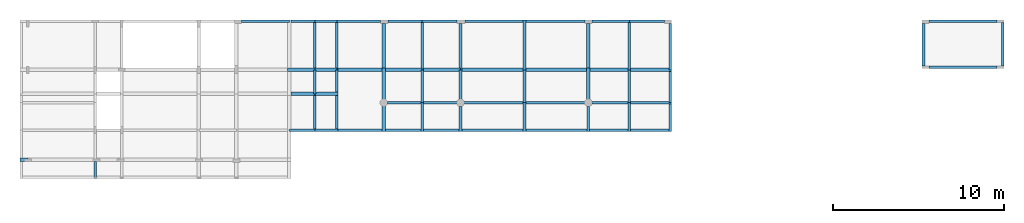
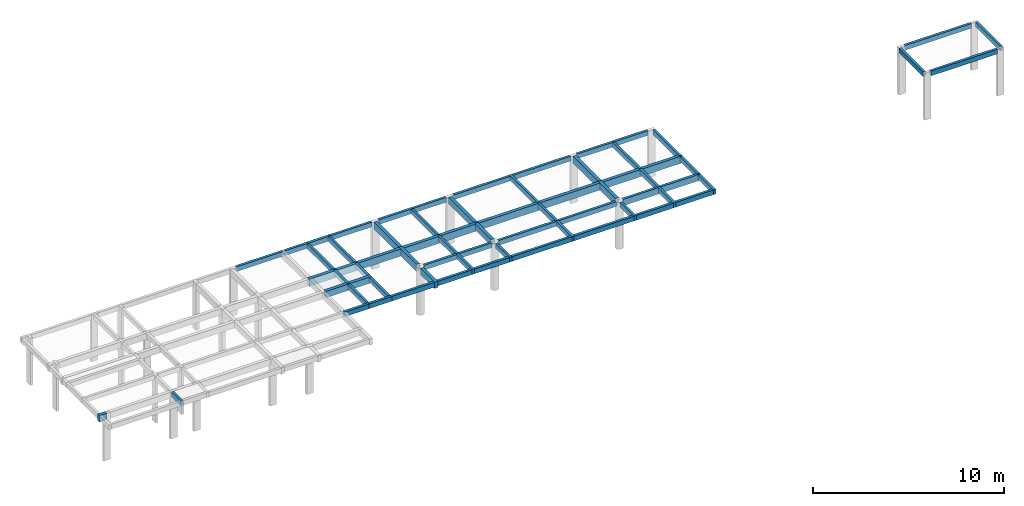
# One storey, part 2 of 4: 69 beams.
"""IFC2X3 building model written with IfcOpenShell, lengths in centimetres."""

from ifc_helpers import new_model, si_unit, derived_unit, frame, origin, origin_with_axes, origin_2d_with_axis, place, context, project, spatial, rectangle, extrude, material, element, save


model = new_model("IFC2X3")

# Units and contexts
model_context = context("Model", 3, precision=1e-05, world=origin_with_axes(), identifier="Body")
ifc_project = project(units=[si_unit("LENGTHUNIT", "METRE", prefix="CENTI"), si_unit("VOLUMEUNIT", "CUBIC_METRE"), si_unit("AREAUNIT", "SQUARE_METRE"), si_unit("POWERUNIT", "WATT"), si_unit("LUMINOUSFLUXUNIT", "LUMEN"), si_unit("ELECTRICCURRENTUNIT", "AMPERE"), si_unit("PRESSUREUNIT", "PASCAL", prefix="KILO"), si_unit("MASSUNIT", "GRAM", prefix="KILO"), si_unit("PLANEANGLEUNIT", "RADIAN"), derived_unit("VOLUMETRICFLOWRATEUNIT", [(si_unit("LENGTHUNIT", "METRE"), 3), (si_unit("TIMEUNIT", "SECOND"), -1)])], contexts=[model_context])

# Site, building, storey
site_placement = place(None, origin_with_axes())
site = spatial("IfcSite", under=ifc_project, at=site_placement)
building_placement = place(site_placement, origin())
building = spatial("IfcBuilding", under=site, at=building_placement)
placement_1 = place(building_placement, origin_with_axes())
placement_2 = place(placement_1, frame((0.0, 0.0, 80.0), z_axis=(0.0, 0.0, 1.0), x_axis=(1.0, 0.0, 0.0)))
placement_3 = place(placement_2, frame((0.0, 0.0, 320.0), z_axis=(0.0, 0.0, 1.0), x_axis=(1.0, 0.0, 0.0)))
placement_4 = place(placement_3, frame((0.0, 0.0, 320.0), z_axis=(0.0, 0.0, 1.0), x_axis=(1.0, 0.0, 0.0)))
storey_placement = place(placement_4, frame((0.0, 0.0, 300.0), z_axis=(0.0, 0.0, 1.0), x_axis=(1.0, 0.0, 0.0)))
storey = spatial("IfcBuildingStorey", under=building, at=storey_placement, Name="05. Pavimento Técnico", CompositionType="ELEMENT", Elevation=1020.0)

# Beams
ifc_material = material(Name="Concreto")
beam_1_placement = place(storey_placement, frame((298.915, -281.61, 0.0), z_axis=(0.0, 0.0, 1.0), x_axis=(1.0, 0.0, 0.0)))
element("IfcBeam", 1, at=beam_1_placement, inside=storey, material=ifc_material, Name="V1", context=model_context, shape_type="SolidModel", body=[
    extrude(rectangle(XDim=15.0, YDim=30.0, at=origin_2d_with_axis()), frame((-64.375, 0.0, -15.0), z_axis=(1.0, 0.0, 0.0), x_axis=(0.0, -1.0, 0.0)), (0.0, 0.0, 1.0), 128.75),
])
beam_2_placement = place(storey_placement, frame((966.04, -281.61, 0.0), z_axis=(0.0, 0.0, 1.0), x_axis=(1.0, 0.0, 0.0)))
element("IfcBeam", 2, at=beam_2_placement, inside=storey, material=ifc_material, Name="V1", context=model_context, shape_type="SolidModel", body=[
    extrude(rectangle(XDim=15.0, YDim=30.0, at=origin_2d_with_axis()), frame((-102.5, 0.0, -15.0), z_axis=(1.0, 0.0, 0.0), x_axis=(0.0, 1.0, 0.0)), (0.0, 0.0, 1.0), 205.0),
])
beam_3_placement = place(storey_placement, frame((-54.96, -281.61, 0.0), z_axis=(0.0, 0.0, 1.0), x_axis=(1.0, 0.0, 0.0)))
element("IfcBeam", 3, at=beam_3_placement, inside=storey, material=ifc_material, Name="V1", context=model_context, shape_type="SolidModel", body=[
    extrude(rectangle(XDim=15.0, YDim=30.0, at=origin_2d_with_axis()), frame((-140.5, 0.0, -15.0), z_axis=(1.0, 0.0, 0.0), x_axis=(0.0, -1.0, 0.0)), (0.0, 0.0, 1.0), 281.0),
])
beam_4_placement = place(storey_placement, frame((2181.915, -281.61, 0.0), z_axis=(0.0, 0.0, 1.0), x_axis=(1.0, 0.0, 0.0)))
element("IfcBeam", 4, at=beam_4_placement, inside=storey, material=ifc_material, Name="V1", context=model_context, shape_type="SolidModel", body=[
    extrude(rectangle(XDim=15.0, YDim=30.0, at=origin_2d_with_axis()), frame((-103.625, 0.0, -15.0), z_axis=(1.0, 0.0, 0.0), x_axis=(0.0, 1.0, 0.0)), (0.0, 0.0, 1.0), 207.25),
])
beam_5_placement = place(storey_placement, frame((763.54, -281.61, 0.0), z_axis=(0.0, 0.0, 1.0), x_axis=(1.0, 0.0, 0.0)))
element("IfcBeam", 5, at=beam_5_placement, inside=storey, material=ifc_material, Name="V1", context=model_context, shape_type="SolidModel", body=[
    extrude(rectangle(XDim=15.0, YDim=30.0, at=origin_2d_with_axis()), frame((-100.0, 0.0, -15.0), z_axis=(1.0, 0.0, 0.0), x_axis=(0.0, 1.0, 0.0)), (0.0, 0.0, 1.0), 200.0),
])
beam_6_placement = place(storey_placement, frame((1284.855, -281.61, 0.0), z_axis=(0.0, 0.0, 1.0), x_axis=(1.0, 0.0, 0.0)))
element("IfcBeam", 6, at=beam_6_placement, inside=storey, material=ifc_material, Name="V1", context=model_context, shape_type="SolidModel", body=[
    extrude(rectangle(XDim=15.0, YDim=30.0, at=origin_2d_with_axis()), frame((-171.315, 0.0, -15.0), z_axis=(1.0, 0.0, 0.0), x_axis=(0.0, 1.0, 0.0)), (0.0, 0.0, 1.0), 342.63),
])
beam_7_placement = place(storey_placement, frame((1968.415, -281.61, 0.0), z_axis=(0.0, 0.0, 1.0), x_axis=(1.0, 0.0, 0.0)))
element("IfcBeam", 7, at=beam_7_placement, inside=storey, material=ifc_material, Name="V1", context=model_context, shape_type="SolidModel", body=[
    extrude(rectangle(XDim=15.0, YDim=30.0, at=origin_2d_with_axis()), frame((-109.875, 0.0, -15.0), z_axis=(1.0, 0.0, 0.0), x_axis=(0.0, 1.0, 0.0)), (0.0, 0.0, 1.0), 219.75),
])
beam_8_placement = place(storey_placement, frame((1641.105, -281.61, 0.0), z_axis=(0.0, 0.0, 1.0), x_axis=(1.0, 0.0, 0.0)))
element("IfcBeam", 8, at=beam_8_placement, inside=storey, material=ifc_material, Name="V1", context=model_context, shape_type="SolidModel", body=[
    extrude(rectangle(XDim=15.0, YDim=30.0, at=origin_2d_with_axis()), frame((-177.435, 0.0, -15.0), z_axis=(1.0, 0.0, 0.0), x_axis=(0.0, 1.0, 0.0)), (0.0, 0.0, 1.0), 354.87),
])
beam_9_placement = place(storey_placement, frame((490.915, -281.61, 0.0), z_axis=(0.0, 0.0, 1.0), x_axis=(1.0, 0.0, 0.0)))
element("IfcBeam", 9, at=beam_9_placement, inside=storey, material=ifc_material, Name="V1", context=model_context, shape_type="SolidModel", body=[
    extrude(rectangle(XDim=15.0, YDim=30.0, at=origin_2d_with_axis()), frame((-127.625, 0.0, -15.0), z_axis=(1.0, 0.0, 0.0), x_axis=(0.0, -1.0, 0.0)), (0.0, 0.0, 1.0), 255.25),
])
beam_10_placement = place(storey_placement, frame((165.04, -281.61, 0.0), z_axis=(0.0, 0.0, 1.0), x_axis=(1.0, 0.0, 0.0)))
element("IfcBeam", 10, at=beam_10_placement, inside=storey, material=ifc_material, Name="V1", context=model_context, shape_type="SolidModel", body=[
    extrude(rectangle(XDim=15.0, YDim=30.0, at=origin_2d_with_axis()), frame((-69.5, 0.0, -15.0), z_axis=(1.0, 0.0, 0.0), x_axis=(0.0, -1.0, 0.0)), (0.0, 0.0, 1.0), 139.0),
])
beam_11_placement = place(storey_placement, frame((2201.915, -758.96, 0.0), z_axis=(0.0, 0.0, 1.0), x_axis=(1.0, 0.0, 0.0)))
element("IfcBeam", 11, at=beam_11_placement, inside=storey, material=ifc_material, Name="V10", context=model_context, shape_type="SolidModel", body=[
    extrude(rectangle(XDim=15.0, YDim=40.0, at=origin_2d_with_axis()), frame((-123.625, 0.0, -20.0), z_axis=(1.0, 0.0, 0.0), x_axis=(0.0, 1.0, 0.0)), (0.0, 0.0, 1.0), 247.25),
])
beam_12_placement = place(storey_placement, frame((1969.0866017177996, -758.96, 0.0), z_axis=(0.0, 0.0, 1.0), x_axis=(1.0, 0.0, 0.0)))
element("IfcBeam", 12, at=beam_12_placement, inside=storey, material=ifc_material, Name="V10", context=model_context, shape_type="SolidModel", body=[
    extrude(rectangle(XDim=15.0, YDim=40.0, at=origin_2d_with_axis()), frame((-109.20339828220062, 0.0, -20.0), z_axis=(1.0, 0.0, 0.0), x_axis=(0.0, 1.0, 0.0)), (0.0, 0.0, 1.0), 218.40679656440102),
])
beam_13_placement = place(storey_placement, frame((302.665, -919.61, 0.0), z_axis=(0.0, 0.0, 1.0), x_axis=(1.0, 0.0, 0.0)))
element("IfcBeam", 13, at=beam_13_placement, inside=storey, material=ifc_material, Name="V11", context=model_context, shape_type="SolidModel", body=[
    extrude(rectangle(XDim=15.0, YDim=30.0, at=origin_2d_with_axis()), frame((-68.125, 0.0, -15.0), z_axis=(1.0, 0.0, 0.0), x_axis=(0.0, -1.0, 0.0)), (0.0, 0.0, 1.0), 136.25),
])
beam_14_placement = place(storey_placement, frame((972.29, -919.61, 0.0), z_axis=(0.0, 0.0, 1.0), x_axis=(1.0, 0.0, 0.0)))
element("IfcBeam", 14, at=beam_14_placement, inside=storey, material=ifc_material, Name="V11", context=model_context, shape_type="SolidModel", body=[
    extrude(rectangle(XDim=15.0, YDim=30.0, at=origin_2d_with_axis()), frame((-108.75, 0.0, -15.0), z_axis=(1.0, 0.0, 0.0), x_axis=(0.0, -1.0, 0.0)), (0.0, 0.0, 1.0), 217.5),
])
beam_15_placement = place(storey_placement, frame((2194.415, -919.61, 0.0), z_axis=(0.0, 0.0, 1.0), x_axis=(1.0, 0.0, 0.0)))
element("IfcBeam", 15, at=beam_15_placement, inside=storey, material=ifc_material, Name="V11", context=model_context, shape_type="SolidModel", body=[
    extrude(rectangle(XDim=15.0, YDim=30.0, at=origin_2d_with_axis()), frame((-116.125, 0.0, -15.0), z_axis=(1.0, 0.0, 0.0), x_axis=(0.0, 1.0, 0.0)), (0.0, 0.0, 1.0), 232.25),
])
beam_16_placement = place(storey_placement, frame((1654.855, -919.61, 0.0), z_axis=(0.0, 0.0, 1.0), x_axis=(1.0, 0.0, 0.0)))
element("IfcBeam", 16, at=beam_16_placement, inside=storey, material=ifc_material, Name="V11", context=model_context, shape_type="SolidModel", body=[
    extrude(rectangle(XDim=15.0, YDim=30.0, at=origin_2d_with_axis()), frame((-183.685, 0.0, -15.0), z_axis=(1.0, 0.0, 0.0), x_axis=(0.0, -1.0, 0.0)), (0.0, 0.0, 1.0), 367.37),
])
beam_17_placement = place(storey_placement, frame((500.915, -919.61, 0.0), z_axis=(0.0, 0.0, 1.0), x_axis=(1.0, 0.0, 0.0)))
element("IfcBeam", 17, at=beam_17_placement, inside=storey, material=ifc_material, Name="V11", context=model_context, shape_type="SolidModel", body=[
    extrude(rectangle(XDim=15.0, YDim=30.0, at=origin_2d_with_axis()), frame((-137.625, 0.0, -15.0), z_axis=(1.0, 0.0, 0.0), x_axis=(0.0, -1.0, 0.0)), (0.0, 0.0, 1.0), 275.25),
])
beam_18_placement = place(storey_placement, frame((1958.415, -919.61, 0.0), z_axis=(0.0, 0.0, 1.0), x_axis=(1.0, 0.0, 0.0)))
element("IfcBeam", 18, at=beam_18_placement, inside=storey, material=ifc_material, Name="V11", context=model_context, shape_type="SolidModel", body=[
    extrude(rectangle(XDim=15.0, YDim=30.0, at=origin_2d_with_axis()), frame((-112.375, 0.0, -15.0), z_axis=(1.0, 0.0, 0.0), x_axis=(0.0, 1.0, 0.0)), (0.0, 0.0, 1.0), 224.75),
])
beam_19_placement = place(storey_placement, frame((1276.105, -919.61, 0.0), z_axis=(0.0, 0.0, 1.0), x_axis=(1.0, 0.0, 0.0)))
element("IfcBeam", 19, at=beam_19_placement, inside=storey, material=ifc_material, Name="V11", context=model_context, shape_type="SolidModel", body=[
    extrude(rectangle(XDim=15.0, YDim=30.0, at=origin_2d_with_axis()), frame((-187.565, 0.0, -15.0), z_axis=(1.0, 0.0, 0.0), x_axis=(0.0, -1.0, 0.0)), (0.0, 0.0, 1.0), 375.13),
])
beam_20_placement = place(storey_placement, frame((752.29, -919.61, 0.0), z_axis=(0.0, 0.0, 1.0), x_axis=(1.0, 0.0, 0.0)))
element("IfcBeam", 20, at=beam_20_placement, inside=storey, material=ifc_material, Name="V11", context=model_context, shape_type="SolidModel", body=[
    extrude(rectangle(XDim=15.0, YDim=30.0, at=origin_2d_with_axis()), frame((-103.75, 0.0, -15.0), z_axis=(1.0, 0.0, 0.0), x_axis=(0.0, -1.0, 0.0)), (0.0, 0.0, 1.0), 207.5),
])
beam_21_placement = place(storey_placement, frame((160.04, -919.61, 0.0), z_axis=(0.0, 0.0, 1.0), x_axis=(1.0, 0.0, 0.0)))
element("IfcBeam", 21, at=beam_21_placement, inside=storey, material=ifc_material, Name="V11", context=model_context, shape_type="SolidModel", body=[
    extrude(rectangle(XDim=15.0, YDim=30.0, at=origin_2d_with_axis()), frame((-74.5, 0.0, -15.0), z_axis=(1.0, 0.0, 0.0), x_axis=(0.0, -1.0, 0.0)), (0.0, 0.0, 1.0), 149.0),
])
beam_22_placement = place(storey_placement, frame((-1471.21, -1094.11, 0.0), z_axis=(0.0, 0.0, 1.0), x_axis=(1.0, 0.0, 0.0)))
element("IfcBeam", 22, at=beam_22_placement, inside=storey, material=ifc_material, Name="V12", context=model_context, shape_type="SolidModel", body=[
    extrude(rectangle(XDim=20.0, YDim=40.0, at=origin_2d_with_axis()), frame((-23.25, 0.0, -20.0), z_axis=(1.0, 0.0, 0.0), x_axis=(0.0, -1.0, 0.0)), (0.0, 0.0, 1.0), 46.5),
])
beam_23_placement = place(storey_placement, frame((-1052.96, -1150.355, 0.0), z_axis=(0.0, 0.0, 1.0), x_axis=(1.0, 0.0, 0.0)))
element("IfcBeam", 23, at=beam_23_placement, inside=storey, material=ifc_material, Name="V15", context=model_context, shape_type="SolidModel", body=[
    extrude(rectangle(XDim=15.0, YDim=30.0, at=origin_2d_with_axis()), frame((0.0, -46.255, -15.0), z_axis=(0.0, 1.0, 0.0), x_axis=(-1.0, 0.0, 0.0)), (0.0, 0.0, 1.0), 92.51),
])
beam_24_placement = place(storey_placement, frame((4035.79, -281.61, 0.0), z_axis=(0.0, 0.0, 1.0), x_axis=(1.0, 0.0, 0.0)))
element("IfcBeam", 24, at=beam_24_placement, inside=storey, material=ifc_material, Name="V2", context=model_context, shape_type="SolidModel", body=[
    extrude(rectangle(XDim=15.0, YDim=30.0, at=origin_2d_with_axis()), frame((-199.75, 0.0, -15.0), z_axis=(1.0, 0.0, 0.0), x_axis=(0.0, 1.0, 0.0)), (0.0, 0.0, 1.0), 399.5),
])
beam_25_placement = place(storey_placement, frame((234.54, -636.61, 0.0), z_axis=(0.0, 0.0, 1.0), x_axis=(1.0, 0.0, 0.0)))
element("IfcBeam", 25, at=beam_25_placement, inside=storey, material=ifc_material, Name="V20", context=model_context, shape_type="SolidModel", body=[
    extrude(rectangle(XDim=15.0, YDim=30.0, at=origin_2d_with_axis()), frame((0.0, -70.0, -15.0), z_axis=(0.0, 1.0, 0.0), x_axis=(1.0, 0.0, 0.0)), (0.0, 0.0, 1.0), 140.0),
])
beam_26_placement = place(storey_placement, frame((234.54, -420.36, 0.0), z_axis=(0.0, 0.0, 1.0), x_axis=(1.0, 0.0, 0.0)))
element("IfcBeam", 26, at=beam_26_placement, inside=storey, material=ifc_material, Name="V20", context=model_context, shape_type="SolidModel", body=[
    extrude(rectangle(XDim=15.0, YDim=30.0, at=origin_2d_with_axis()), frame((0.0, -146.25, -15.0), z_axis=(0.0, 1.0, 0.0), x_axis=(1.0, 0.0, 0.0)), (0.0, 0.0, 1.0), 292.5),
])
beam_27_placement = place(storey_placement, frame((234.54, -813.11, 0.0), z_axis=(0.0, 0.0, 1.0), x_axis=(1.0, 0.0, 0.0)))
element("IfcBeam", 27, at=beam_27_placement, inside=storey, material=ifc_material, Name="V20", context=model_context, shape_type="SolidModel", body=[
    extrude(rectangle(XDim=15.0, YDim=30.0, at=origin_2d_with_axis()), frame((0.0, -106.5, -15.0), z_axis=(0.0, 1.0, 0.0), x_axis=(1.0, 0.0, 0.0)), (0.0, 0.0, 1.0), 213.0),
])
beam_28_placement = place(storey_placement, frame((363.29, -631.61, 0.0), z_axis=(0.0, 0.0, 1.0), x_axis=(1.0, 0.0, 0.0)))
element("IfcBeam", 28, at=beam_28_placement, inside=storey, material=ifc_material, Name="V21", context=model_context, shape_type="SolidModel", body=[
    extrude(rectangle(XDim=15.0, YDim=30.0, at=origin_2d_with_axis()), frame((0.0, -65.0, -15.0), z_axis=(0.0, 1.0, 0.0), x_axis=(1.0, 0.0, 0.0)), (0.0, 0.0, 1.0), 130.0),
])
beam_29_placement = place(storey_placement, frame((363.29, -424.11, 0.0), z_axis=(0.0, 0.0, 1.0), x_axis=(1.0, 0.0, 0.0)))
element("IfcBeam", 29, at=beam_29_placement, inside=storey, material=ifc_material, Name="V21", context=model_context, shape_type="SolidModel", body=[
    extrude(rectangle(XDim=15.0, YDim=30.0, at=origin_2d_with_axis()), frame((0.0, -142.5, -15.0), z_axis=(0.0, 1.0, 0.0), x_axis=(1.0, 0.0, 0.0)), (0.0, 0.0, 1.0), 285.0),
])
beam_30_placement = place(storey_placement, frame((363.29, -809.36, 0.0), z_axis=(0.0, 0.0, 1.0), x_axis=(1.0, 0.0, 0.0)))
element("IfcBeam", 30, at=beam_30_placement, inside=storey, material=ifc_material, Name="V21", context=model_context, shape_type="SolidModel", body=[
    extrude(rectangle(XDim=15.0, YDim=30.0, at=origin_2d_with_axis()), frame((0.0, -102.75, -15.0), z_axis=(0.0, 1.0, 0.0), x_axis=(1.0, 0.0, 0.0)), (0.0, 0.0, 1.0), 205.5),
])
beam_31_placement = place(storey_placement, frame((638.54, -853.0803110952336, 0.0), z_axis=(0.0, 0.0, 1.0), x_axis=(1.0, 0.0, 0.0)))
element("IfcBeam", 31, at=beam_31_placement, inside=storey, material=ifc_material, Name="V22", context=model_context, shape_type="SolidModel", body=[
    extrude(rectangle(XDim=20.0, YDim=40.0, at=origin_2d_with_axis()), frame((0.0, -74.02968890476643, -20.0), z_axis=(0.0, 1.0, 0.0), x_axis=(1.0, 0.0, 0.0)), (0.0, 0.0, 1.0), 148.05937780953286),
])
beam_32_placement = place(storey_placement, frame((638.54, -430.36, 0.0), z_axis=(0.0, 0.0, 1.0), x_axis=(1.0, 0.0, 0.0)))
element("IfcBeam", 32, at=beam_32_placement, inside=storey, material=ifc_material, Name="V23", context=model_context, shape_type="SolidModel", body=[
    extrude(rectangle(XDim=20.0, YDim=45.0, at=origin_2d_with_axis()), frame((0.0, -136.25, -22.5), z_axis=(0.0, 1.0, 0.0), x_axis=(1.0, 0.0, 0.0)), (0.0, 0.0, 1.0), 272.5),
])
beam_33_placement = place(storey_placement, frame((638.54, -647.7396889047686, 0.0), z_axis=(0.0, 0.0, 1.0), x_axis=(1.0, 0.0, 0.0)))
element("IfcBeam", 33, at=beam_33_placement, inside=storey, material=ifc_material, Name="V23", context=model_context, shape_type="SolidModel", body=[
    extrude(rectangle(XDim=20.0, YDim=45.0, at=origin_2d_with_axis()), frame((0.0, -91.12968890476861, -22.5), z_axis=(0.0, 1.0, 0.0), x_axis=(1.0, 0.0, 0.0)), (0.0, 0.0, 1.0), 182.25937780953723),
])
beam_34_placement = place(storey_placement, frame((863.54, -424.11, 0.0), z_axis=(0.0, 0.0, 1.0), x_axis=(1.0, 0.0, 0.0)))
element("IfcBeam", 34, at=beam_34_placement, inside=storey, material=ifc_material, Name="V24", context=model_context, shape_type="SolidModel", body=[
    extrude(rectangle(XDim=15.0, YDim=30.0, at=origin_2d_with_axis()), frame((0.0, -142.5, -15.0), z_axis=(0.0, 1.0, 0.0), x_axis=(1.0, 0.0, 0.0)), (0.0, 0.0, 1.0), 285.0),
])
beam_35_placement = place(storey_placement, frame((863.54, -843.035, 0.0), z_axis=(0.0, 0.0, 1.0), x_axis=(1.0, 0.0, 0.0)))
element("IfcBeam", 35, at=beam_35_placement, inside=storey, material=ifc_material, Name="V24", context=model_context, shape_type="SolidModel", body=[
    extrude(rectangle(XDim=15.0, YDim=30.0, at=origin_2d_with_axis()), frame((0.0, -84.075, -15.0), z_axis=(0.0, 1.0, 0.0), x_axis=(1.0, 0.0, 0.0)), (0.0, 0.0, 1.0), 168.15),
])
beam_36_placement = place(storey_placement, frame((863.54, -662.785, 0.0), z_axis=(0.0, 0.0, 1.0), x_axis=(1.0, 0.0, 0.0)))
element("IfcBeam", 36, at=beam_36_placement, inside=storey, material=ifc_material, Name="V24", context=model_context, shape_type="SolidModel", body=[
    extrude(rectangle(XDim=15.0, YDim=30.0, at=origin_2d_with_axis()), frame((0.0, -96.175, -15.0), z_axis=(0.0, 1.0, 0.0), x_axis=(1.0, 0.0, 0.0)), (0.0, 0.0, 1.0), 192.35),
])
beam_37_placement = place(storey_placement, frame((1088.54, -853.6183961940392, 0.0), z_axis=(0.0, 0.0, 1.0), x_axis=(1.0, 0.0, 0.0)))
element("IfcBeam", 37, at=beam_37_placement, inside=storey, material=ifc_material, Name="V25", context=model_context, shape_type="SolidModel", body=[
    extrude(rectangle(XDim=15.0, YDim=30.0, at=origin_2d_with_axis()), frame((0.0, -73.49160380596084, -15.0), z_axis=(0.0, 1.0, 0.0), x_axis=(1.0, 0.0, 0.0)), (0.0, 0.0, 1.0), 146.98320761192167),
])
beam_38_placement = place(storey_placement, frame((1088.54, -652.7396889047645, 0.0), z_axis=(0.0, 0.0, 1.0), x_axis=(1.0, 0.0, 0.0)))
element("IfcBeam", 38, at=beam_38_placement, inside=storey, material=ifc_material, Name="V26", context=model_context, shape_type="SolidModel", body=[
    extrude(rectangle(XDim=20.0, YDim=40.0, at=origin_2d_with_axis()), frame((0.0, -86.12968890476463, -20.0), z_axis=(0.0, 1.0, 0.0), x_axis=(1.0, 0.0, 0.0)), (0.0, 0.0, 1.0), 172.25937780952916),
])
beam_39_placement = place(storey_placement, frame((1088.54, -430.36, 0.0), z_axis=(0.0, 0.0, 1.0), x_axis=(1.0, 0.0, 0.0)))
element("IfcBeam", 39, at=beam_39_placement, inside=storey, material=ifc_material, Name="V26", context=model_context, shape_type="SolidModel", body=[
    extrude(rectangle(XDim=20.0, YDim=40.0, at=origin_2d_with_axis()), frame((0.0, -136.25, -20.0), z_axis=(0.0, 1.0, 0.0), x_axis=(1.0, 0.0, 0.0)), (0.0, 0.0, 1.0), 272.5),
])
beam_40_placement = place(storey_placement, frame((1463.67, -420.36, 0.0), z_axis=(0.0, 0.0, 1.0), x_axis=(1.0, 0.0, 0.0)))
element("IfcBeam", 40, at=beam_40_placement, inside=storey, material=ifc_material, Name="V27", context=model_context, shape_type="SolidModel", body=[
    extrude(rectangle(XDim=15.0, YDim=30.0, at=origin_2d_with_axis()), frame((0.0, -146.25, -15.0), z_axis=(0.0, 1.0, 0.0), x_axis=(1.0, 0.0, 0.0)), (0.0, 0.0, 1.0), 292.5),
])
beam_41_placement = place(storey_placement, frame((1463.67, -662.785, 0.0), z_axis=(0.0, 0.0, 1.0), x_axis=(1.0, 0.0, 0.0)))
element("IfcBeam", 41, at=beam_41_placement, inside=storey, material=ifc_material, Name="V27", context=model_context, shape_type="SolidModel", body=[
    extrude(rectangle(XDim=15.0, YDim=30.0, at=origin_2d_with_axis()), frame((0.0, -96.175, -15.0), z_axis=(0.0, 1.0, 0.0), x_axis=(1.0, 0.0, 0.0)), (0.0, 0.0, 1.0), 192.35),
])
beam_42_placement = place(storey_placement, frame((1463.67, -843.035, 0.0), z_axis=(0.0, 0.0, 1.0), x_axis=(1.0, 0.0, 0.0)))
element("IfcBeam", 42, at=beam_42_placement, inside=storey, material=ifc_material, Name="V27", context=model_context, shape_type="SolidModel", body=[
    extrude(rectangle(XDim=15.0, YDim=30.0, at=origin_2d_with_axis()), frame((0.0, -84.075, -15.0), z_axis=(0.0, 1.0, 0.0), x_axis=(1.0, 0.0, 0.0)), (0.0, 0.0, 1.0), 168.15),
])
beam_43_placement = place(storey_placement, frame((1838.54, -853.6183961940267, 0.0), z_axis=(0.0, 0.0, 1.0), x_axis=(1.0, 0.0, 0.0)))
element("IfcBeam", 43, at=beam_43_placement, inside=storey, material=ifc_material, Name="V28", context=model_context, shape_type="SolidModel", body=[
    extrude(rectangle(XDim=15.0, YDim=30.0, at=origin_2d_with_axis()), frame((0.0, -73.49160380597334, -15.0), z_axis=(0.0, 1.0, 0.0), x_axis=(1.0, 0.0, 0.0)), (0.0, 0.0, 1.0), 146.98320761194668),
])
beam_44_placement = place(storey_placement, frame((1838.54, -647.7396889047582, 0.0), z_axis=(0.0, 0.0, 1.0), x_axis=(1.0, 0.0, 0.0)))
element("IfcBeam", 44, at=beam_44_placement, inside=storey, material=ifc_material, Name="V29", context=model_context, shape_type="SolidModel", body=[
    extrude(rectangle(XDim=20.0, YDim=45.0, at=origin_2d_with_axis()), frame((0.0, -91.12968890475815, -22.5), z_axis=(0.0, 1.0, 0.0), x_axis=(1.0, 0.0, 0.0)), (0.0, 0.0, 1.0), 182.2593778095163),
])
beam_45_placement = place(storey_placement, frame((1838.54, -430.36, 0.0), z_axis=(0.0, 0.0, 1.0), x_axis=(1.0, 0.0, 0.0)))
element("IfcBeam", 45, at=beam_45_placement, inside=storey, material=ifc_material, Name="V29", context=model_context, shape_type="SolidModel", body=[
    extrude(rectangle(XDim=20.0, YDim=45.0, at=origin_2d_with_axis()), frame((0.0, -136.25, -22.5), z_axis=(0.0, 1.0, 0.0), x_axis=(1.0, 0.0, 0.0)), (0.0, 0.0, 1.0), 272.5),
])
beam_46_placement = place(storey_placement, frame((2078.29, -843.035, 0.0), z_axis=(0.0, 0.0, 1.0), x_axis=(1.0, 0.0, 0.0)))
element("IfcBeam", 46, at=beam_46_placement, inside=storey, material=ifc_material, Name="V30", context=model_context, shape_type="SolidModel", body=[
    extrude(rectangle(XDim=15.0, YDim=30.0, at=origin_2d_with_axis()), frame((0.0, -84.075, -15.0), z_axis=(0.0, 1.0, 0.0), x_axis=(1.0, 0.0, 0.0)), (0.0, 0.0, 1.0), 168.15),
])
beam_47_placement = place(storey_placement, frame((2078.29, -662.785, 0.0), z_axis=(0.0, 0.0, 1.0), x_axis=(1.0, 0.0, 0.0)))
element("IfcBeam", 47, at=beam_47_placement, inside=storey, material=ifc_material, Name="V30", context=model_context, shape_type="SolidModel", body=[
    extrude(rectangle(XDim=15.0, YDim=30.0, at=origin_2d_with_axis()), frame((0.0, -96.175, -15.0), z_axis=(0.0, 1.0, 0.0), x_axis=(1.0, 0.0, 0.0)), (0.0, 0.0, 1.0), 192.35),
])
beam_48_placement = place(storey_placement, frame((2078.29, -424.11, 0.0), z_axis=(0.0, 0.0, 1.0), x_axis=(1.0, 0.0, 0.0)))
element("IfcBeam", 48, at=beam_48_placement, inside=storey, material=ifc_material, Name="V30", context=model_context, shape_type="SolidModel", body=[
    extrude(rectangle(XDim=15.0, YDim=30.0, at=origin_2d_with_axis()), frame((0.0, -142.5, -15.0), z_axis=(0.0, 1.0, 0.0), x_axis=(1.0, 0.0, 0.0)), (0.0, 0.0, 1.0), 285.0),
])
beam_49_placement = place(storey_placement, frame((2318.04, -846.785, 0.0), z_axis=(0.0, 0.0, 1.0), x_axis=(1.0, 0.0, 0.0)))
element("IfcBeam", 49, at=beam_49_placement, inside=storey, material=ifc_material, Name="V31", context=model_context, shape_type="SolidModel", body=[
    extrude(rectangle(XDim=15.0, YDim=30.0, at=origin_2d_with_axis()), frame((0.0, -80.325, -15.0), z_axis=(0.0, 1.0, 0.0), x_axis=(1.0, 0.0, 0.0)), (0.0, 0.0, 1.0), 160.65),
])
beam_50_placement = place(storey_placement, frame((2318.04, -667.785, 0.0), z_axis=(0.0, 0.0, 1.0), x_axis=(1.0, 0.0, 0.0)))
element("IfcBeam", 50, at=beam_50_placement, inside=storey, material=ifc_material, Name="V31", context=model_context, shape_type="SolidModel", body=[
    extrude(rectangle(XDim=15.0, YDim=30.0, at=origin_2d_with_axis()), frame((0.0, -91.175, -15.0), z_axis=(0.0, 1.0, 0.0), x_axis=(1.0, 0.0, 0.0)), (0.0, 0.0, 1.0), 182.35),
])
beam_51_placement = place(storey_placement, frame((2318.04, -430.36, 0.0), z_axis=(0.0, 0.0, 1.0), x_axis=(1.0, 0.0, 0.0)))
element("IfcBeam", 51, at=beam_51_placement, inside=storey, material=ifc_material, Name="V31", context=model_context, shape_type="SolidModel", body=[
    extrude(rectangle(XDim=15.0, YDim=30.0, at=origin_2d_with_axis()), frame((0.0, -136.25, -15.0), z_axis=(0.0, 1.0, 0.0), x_axis=(1.0, 0.0, 0.0)), (0.0, 0.0, 1.0), 272.5),
])
beam_52_placement = place(storey_placement, frame((3803.54, -419.11, 0.0), z_axis=(0.0, 0.0, 1.0), x_axis=(1.0, 0.0, 0.0)))
element("IfcBeam", 52, at=beam_52_placement, inside=storey, material=ifc_material, Name="V32", context=model_context, shape_type="SolidModel", body=[
    extrude(rectangle(XDim=15.0, YDim=30.0, at=origin_2d_with_axis()), frame((0.0, -125.0, -15.0), z_axis=(0.0, 1.0, 0.0), x_axis=(1.0, 0.0, 0.0)), (0.0, 0.0, 1.0), 250.0),
])
beam_53_placement = place(storey_placement, frame((4268.04, -416.61, 0.0), z_axis=(0.0, 0.0, 1.0), x_axis=(1.0, 0.0, 0.0)))
element("IfcBeam", 53, at=beam_53_placement, inside=storey, material=ifc_material, Name="V33", context=model_context, shape_type="SolidModel", body=[
    extrude(rectangle(XDim=15.0, YDim=30.0, at=origin_2d_with_axis()), frame((0.0, -127.5, -15.0), z_axis=(0.0, 1.0, 0.0), x_axis=(1.0, 0.0, 0.0)), (0.0, 0.0, 1.0), 255.0),
])
beam_54_placement = place(storey_placement, frame((298.915, -566.61, 0.0), z_axis=(0.0, 0.0, 1.0), x_axis=(1.0, 0.0, 0.0)))
element("IfcBeam", 54, at=beam_54_placement, inside=storey, material=ifc_material, Name="V4", context=model_context, shape_type="SolidModel", body=[
    extrude(rectangle(XDim=20.0, YDim=45.0, at=origin_2d_with_axis()), frame((-64.375, 0.0, -22.5), z_axis=(1.0, 0.0, 0.0), x_axis=(0.0, -1.0, 0.0)), (0.0, 0.0, 1.0), 128.75),
])
beam_55_placement = place(storey_placement, frame((2201.915, -566.61, 0.0), z_axis=(0.0, 0.0, 1.0), x_axis=(1.0, 0.0, 0.0)))
element("IfcBeam", 55, at=beam_55_placement, inside=storey, material=ifc_material, Name="V4", context=model_context, shape_type="SolidModel", body=[
    extrude(rectangle(XDim=20.0, YDim=45.0, at=origin_2d_with_axis()), frame((-123.625, 0.0, -22.5), z_axis=(1.0, 0.0, 0.0), x_axis=(0.0, 1.0, 0.0)), (0.0, 0.0, 1.0), 247.25),
])
beam_56_placement = place(storey_placement, frame((976.04, -566.61, 0.0), z_axis=(0.0, 0.0, 1.0), x_axis=(1.0, 0.0, 0.0)))
element("IfcBeam", 56, at=beam_56_placement, inside=storey, material=ifc_material, Name="V4", context=model_context, shape_type="SolidModel", body=[
    extrude(rectangle(XDim=20.0, YDim=45.0, at=origin_2d_with_axis()), frame((-112.5, 0.0, -22.5), z_axis=(1.0, 0.0, 0.0), x_axis=(0.0, -1.0, 0.0)), (0.0, 0.0, 1.0), 225.0),
])
beam_57_placement = place(storey_placement, frame((1963.415, -566.61, 0.0), z_axis=(0.0, 0.0, 1.0), x_axis=(1.0, 0.0, 0.0)))
element("IfcBeam", 57, at=beam_57_placement, inside=storey, material=ifc_material, Name="V4", context=model_context, shape_type="SolidModel", body=[
    extrude(rectangle(XDim=20.0, YDim=45.0, at=origin_2d_with_axis()), frame((-114.875, 0.0, -22.5), z_axis=(1.0, 0.0, 0.0), x_axis=(0.0, 1.0, 0.0)), (0.0, 0.0, 1.0), 229.75),
])
beam_58_placement = place(storey_placement, frame((155.04, -566.61, 0.0), z_axis=(0.0, 0.0, 1.0), x_axis=(1.0, 0.0, 0.0)))
element("IfcBeam", 58, at=beam_58_placement, inside=storey, material=ifc_material, Name="V4", context=model_context, shape_type="SolidModel", body=[
    extrude(rectangle(XDim=20.0, YDim=45.0, at=origin_2d_with_axis()), frame((-79.5, 0.0, -22.5), z_axis=(1.0, 0.0, 0.0), x_axis=(0.0, -1.0, 0.0)), (0.0, 0.0, 1.0), 159.0),
])
beam_59_placement = place(storey_placement, frame((500.915, -566.61, 0.0), z_axis=(0.0, 0.0, 1.0), x_axis=(1.0, 0.0, 0.0)))
element("IfcBeam", 59, at=beam_59_placement, inside=storey, material=ifc_material, Name="V4", context=model_context, shape_type="SolidModel", body=[
    extrude(rectangle(XDim=20.0, YDim=45.0, at=origin_2d_with_axis()), frame((-137.625, 0.0, -22.5), z_axis=(1.0, 0.0, 0.0), x_axis=(0.0, -1.0, 0.0)), (0.0, 0.0, 1.0), 275.25),
])
beam_60_placement = place(storey_placement, frame((756.04, -566.61, 0.0), z_axis=(0.0, 0.0, 1.0), x_axis=(1.0, 0.0, 0.0)))
element("IfcBeam", 60, at=beam_60_placement, inside=storey, material=ifc_material, Name="V4", context=model_context, shape_type="SolidModel", body=[
    extrude(rectangle(XDim=20.0, YDim=45.0, at=origin_2d_with_axis()), frame((-107.5, 0.0, -22.5), z_axis=(1.0, 0.0, 0.0), x_axis=(0.0, -1.0, 0.0)), (0.0, 0.0, 1.0), 215.0),
])
beam_61_placement = place(storey_placement, frame((1276.105, -566.61, 0.0), z_axis=(0.0, 0.0, 1.0), x_axis=(1.0, 0.0, 0.0)))
element("IfcBeam", 61, at=beam_61_placement, inside=storey, material=ifc_material, Name="V4", context=model_context, shape_type="SolidModel", body=[
    extrude(rectangle(XDim=20.0, YDim=45.0, at=origin_2d_with_axis()), frame((-187.565, 0.0, -22.5), z_axis=(1.0, 0.0, 0.0), x_axis=(0.0, 1.0, 0.0)), (0.0, 0.0, 1.0), 375.13),
])
beam_62_placement = place(storey_placement, frame((1651.105, -566.61, 0.0), z_axis=(0.0, 0.0, 1.0), x_axis=(1.0, 0.0, 0.0)))
element("IfcBeam", 62, at=beam_62_placement, inside=storey, material=ifc_material, Name="V4", context=model_context, shape_type="SolidModel", body=[
    extrude(rectangle(XDim=20.0, YDim=45.0, at=origin_2d_with_axis()), frame((-187.435, 0.0, -22.5), z_axis=(1.0, 0.0, 0.0), x_axis=(0.0, 1.0, 0.0)), (0.0, 0.0, 1.0), 374.87),
])
beam_63_placement = place(storey_placement, frame((4035.79, -551.61, 0.0), z_axis=(0.0, 0.0, 1.0), x_axis=(1.0, 0.0, 0.0)))
element("IfcBeam", 63, at=beam_63_placement, inside=storey, material=ifc_material, Name="V5", context=model_context, shape_type="SolidModel", body=[
    extrude(rectangle(XDim=15.0, YDim=30.0, at=origin_2d_with_axis()), frame((-199.75, 0.0, -15.0), z_axis=(1.0, 0.0, 0.0), x_axis=(0.0, 1.0, 0.0)), (0.0, 0.0, 1.0), 399.5),
])
beam_64_placement = place(storey_placement, frame((302.665, -706.61, 0.0), z_axis=(0.0, 0.0, 1.0), x_axis=(1.0, 0.0, 0.0)))
element("IfcBeam", 64, at=beam_64_placement, inside=storey, material=ifc_material, Name="V6", context=model_context, shape_type="SolidModel", body=[
    extrude(rectangle(XDim=20.0, YDim=40.0, at=origin_2d_with_axis()), frame((-68.125, 0.0, -20.0), z_axis=(1.0, 0.0, 0.0), x_axis=(0.0, -1.0, 0.0)), (0.0, 0.0, 1.0), 136.25),
])
beam_65_placement = place(storey_placement, frame((165.04, -706.61, 0.0), z_axis=(0.0, 0.0, 1.0), x_axis=(1.0, 0.0, 0.0)))
element("IfcBeam", 65, at=beam_65_placement, inside=storey, material=ifc_material, Name="V6", context=model_context, shape_type="SolidModel", body=[
    extrude(rectangle(XDim=20.0, YDim=40.0, at=origin_2d_with_axis()), frame((-69.5, 0.0, -20.0), z_axis=(1.0, 0.0, 0.0), x_axis=(0.0, -1.0, 0.0)), (0.0, 0.0, 1.0), 139.0),
])
beam_66_placement = place(storey_placement, frame((965.4983982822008, -758.96, 0.0), z_axis=(0.0, 0.0, 1.0), x_axis=(1.0, 0.0, 0.0)))
element("IfcBeam", 66, at=beam_66_placement, inside=storey, material=ifc_material, Name="V8", context=model_context, shape_type="SolidModel", body=[
    extrude(rectangle(XDim=15.0, YDim=30.0, at=origin_2d_with_axis()), frame((-101.95839828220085, 0.0, -15.0), z_axis=(1.0, 0.0, 0.0), x_axis=(0.0, -1.0, 0.0)), (0.0, 0.0, 1.0), 203.9167965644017),
])
beam_67_placement = place(storey_placement, frame((761.7116017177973, -758.96, 0.0), z_axis=(0.0, 0.0, 1.0), x_axis=(1.0, 0.0, 0.0)))
element("IfcBeam", 67, at=beam_67_placement, inside=storey, material=ifc_material, Name="V8", context=model_context, shape_type="SolidModel", body=[
    extrude(rectangle(XDim=15.0, YDim=30.0, at=origin_2d_with_axis()), frame((-101.82839828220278, 0.0, -15.0), z_axis=(1.0, 0.0, 0.0), x_axis=(0.0, -1.0, 0.0)), (0.0, 0.0, 1.0), 203.65679656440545),
])
beam_68_placement = place(storey_placement, frame((1286.776601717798, -758.96, 0.0), z_axis=(0.0, 0.0, 1.0), x_axis=(1.0, 0.0, 0.0)))
element("IfcBeam", 68, at=beam_68_placement, inside=storey, material=ifc_material, Name="V9", context=model_context, shape_type="SolidModel", body=[
    extrude(rectangle(XDim=15.0, YDim=30.0, at=origin_2d_with_axis()), frame((-176.89339828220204, 0.0, -15.0), z_axis=(1.0, 0.0, 0.0), x_axis=(0.0, -1.0, 0.0)), (0.0, 0.0, 1.0), 353.7867965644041),
])
beam_69_placement = place(storey_placement, frame((1640.5633982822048, -758.96, 0.0), z_axis=(0.0, 0.0, 1.0), x_axis=(1.0, 0.0, 0.0)))
element("IfcBeam", 69, at=beam_69_placement, inside=storey, material=ifc_material, Name="V9", context=model_context, shape_type="SolidModel", body=[
    extrude(rectangle(XDim=15.0, YDim=30.0, at=origin_2d_with_axis()), frame((-176.89339828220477, 0.0, -15.0), z_axis=(1.0, 0.0, 0.0), x_axis=(0.0, 1.0, 0.0)), (0.0, 0.0, 1.0), 353.78679656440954),
])

save(model, "model.ifc")
